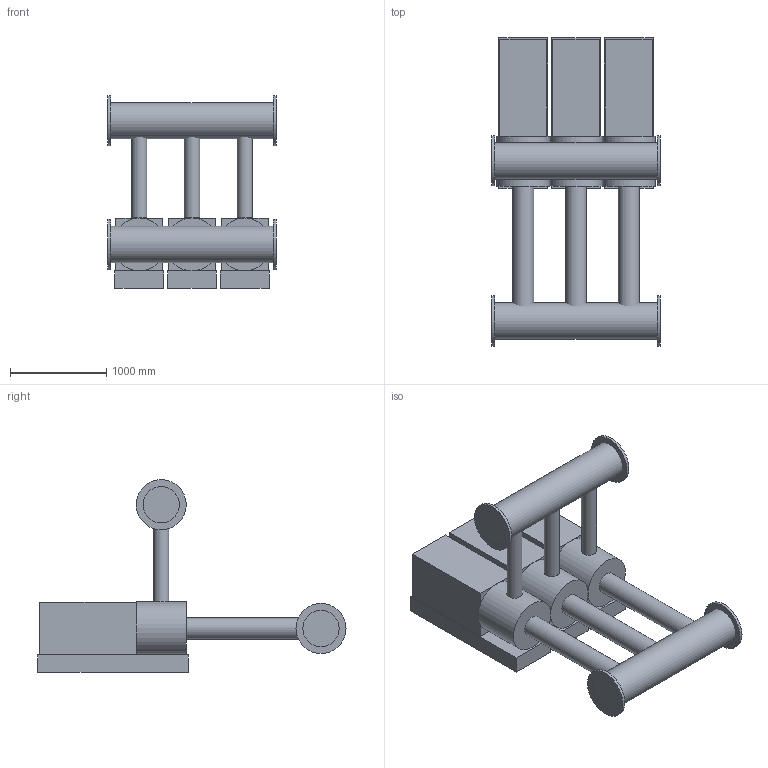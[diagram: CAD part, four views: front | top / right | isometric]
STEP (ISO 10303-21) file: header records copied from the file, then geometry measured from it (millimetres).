
FILE_DESCRIPTION(('Open CASCADE Model'),'2;1');
FILE_NAME('Open CASCADE Shape Model','2026-10-21T15:05:54',('Author'),( 'Open CASCADE'),'Open CASCADE STEP processor 7.9','Open CASCADE 7.9' ,'Unknown');
FILE_SCHEMA(('AUTOMOTIVE_DESIGN { 1 0 10303 214 1 1 1 1 }'));
Length unit declared in the file: millimetre
Products named in the file (22): Ð£ÐÐÐ_ÐÐ ÐÐÐÐ¬_3_NM_150_315; 000_ÐÐ¾Ð»Ð»ÐµÐºÑÐ¾Ñ 
Ð²ÑÐ°ÑÑÐ²Ð°ÑÑÐ¸Ð¹; 001_ÐÐ¾Ð»Ð»ÐµÐºÑÐ¾Ñ 
Ð²ÑÐ°ÑÑÐ²Ð°ÑÑÐ¸Ð¹ â 
ÑÐ»Ð°Ð½ÐµÑ ÐÑ350; 002_ÐÐ¾Ð»Ð»ÐµÐºÑÐ¾Ñ 
Ð²ÑÐ°ÑÑÐ²Ð°ÑÑÐ¸Ð¹ â 
ÑÐ»Ð°Ð½ÐµÑ ÐÑ350; 003_ÐÐ¾Ð»Ð»ÐµÐºÑÐ¾Ñ 
Ð½Ð°Ð¿Ð¾ÑÐ½ÑÐ¹; 004_ÐÐ¾Ð»Ð»ÐµÐºÑÐ¾Ñ 
Ð½Ð°Ð¿Ð¾ÑÐ½ÑÐ¹ â ÑÐ»Ð°Ð½ÐµÑ 
ÐÑ350; 005_ÐÐ¾Ð»Ð»ÐµÐºÑÐ¾Ñ 
Ð½Ð°Ð¿Ð¾ÑÐ½ÑÐ¹ â ÑÐ»Ð°Ð½ÐµÑ 
ÐÑ350; 006_Ð Ð°Ð¼Ð° Ð½Ð°ÑÐ¾ÑÐ° 1; 007_Ð Ð°Ð¼Ð° Ð½Ð°ÑÐ¾ÑÐ° 2; 008_Ð Ð°Ð¼Ð° Ð½Ð°ÑÐ¾ÑÐ° 3; 009_ÐÐ°ÑÐ¾Ñ 1 â ÐºÐ¾ÑÐ¿ÑÑ NM 150-315; 010_ÐÐ°ÑÐ¾Ñ 1 â Ð´Ð²Ð¸Ð³Ð°ÑÐµÐ»Ñ 
55.0 ÐºÐÑ; 011_ÐÐ°ÑÐ¾Ñ 1 â Ð²ÑÐ¾Ð´ ÐÑ200; 012_ÐÐ°ÑÐ¾Ñ 1 â Ð²ÑÑÐ¾Ð´ ÐÑ150; 013_ÐÐ°ÑÐ¾Ñ 2 â ÐºÐ¾ÑÐ¿ÑÑ NM 150-315; 014_ÐÐ°ÑÐ¾Ñ 2 â Ð´Ð²Ð¸Ð³Ð°ÑÐµÐ»Ñ 
55.0 ÐºÐÑ; 015_ÐÐ°ÑÐ¾Ñ 2 â Ð²ÑÐ¾Ð´ ÐÑ200; 016_ÐÐ°ÑÐ¾Ñ 2 â Ð²ÑÑÐ¾Ð´ ÐÑ150; 017_ÐÐ°ÑÐ¾Ñ 3 â ÐºÐ¾ÑÐ¿ÑÑ NM 150-315; 018_ÐÐ°ÑÐ¾Ñ 3 â Ð´Ð²Ð¸Ð³Ð°ÑÐµÐ»Ñ 
55.0 ÐºÐÑ; 019_ÐÐ°ÑÐ¾Ñ 3 â Ð²ÑÐ¾Ð´ ÐÑ200; 020_ÐÐ°ÑÐ¾Ñ 3 â Ð²ÑÑÐ¾Ð´ ÐÑ150
Assembly tree (21 placements, depth 2):
  Ð£ÐÐÐ_ÐÐ ÐÐÐÐ¬_3_NM_150_315
    000_ÐÐ¾Ð»Ð»ÐµÐºÑÐ¾Ñ 
Ð²ÑÐ°ÑÑÐ²Ð°ÑÑÐ¸Ð¹
    001_ÐÐ¾Ð»Ð»ÐµÐºÑÐ¾Ñ 
Ð²ÑÐ°ÑÑÐ²Ð°ÑÑÐ¸Ð¹ â 
ÑÐ»Ð°Ð½ÐµÑ ÐÑ350
    002_ÐÐ¾Ð»Ð»ÐµÐºÑÐ¾Ñ 
Ð²ÑÐ°ÑÑÐ²Ð°ÑÑÐ¸Ð¹ â 
ÑÐ»Ð°Ð½ÐµÑ ÐÑ350
    003_ÐÐ¾Ð»Ð»ÐµÐºÑÐ¾Ñ 
Ð½Ð°Ð¿Ð¾ÑÐ½ÑÐ¹
    004_ÐÐ¾Ð»Ð»ÐµÐºÑÐ¾Ñ 
Ð½Ð°Ð¿Ð¾ÑÐ½ÑÐ¹ â ÑÐ»Ð°Ð½ÐµÑ 
ÐÑ350
    005_ÐÐ¾Ð»Ð»ÐµÐºÑÐ¾Ñ 
Ð½Ð°Ð¿Ð¾ÑÐ½ÑÐ¹ â ÑÐ»Ð°Ð½ÐµÑ 
ÐÑ350
    006_Ð Ð°Ð¼Ð° Ð½Ð°ÑÐ¾ÑÐ° 1
    007_Ð Ð°Ð¼Ð° Ð½Ð°ÑÐ¾ÑÐ° 2
    008_Ð Ð°Ð¼Ð° Ð½Ð°ÑÐ¾ÑÐ° 3
    009_ÐÐ°ÑÐ¾Ñ 1 â ÐºÐ¾ÑÐ¿ÑÑ NM 150-315
    010_ÐÐ°ÑÐ¾Ñ 1 â Ð´Ð²Ð¸Ð³Ð°ÑÐµÐ»Ñ 
55.0 ÐºÐÑ
    011_ÐÐ°ÑÐ¾Ñ 1 â Ð²ÑÐ¾Ð´ ÐÑ200
    012_ÐÐ°ÑÐ¾Ñ 1 â Ð²ÑÑÐ¾Ð´ ÐÑ150
    013_ÐÐ°ÑÐ¾Ñ 2 â ÐºÐ¾ÑÐ¿ÑÑ NM 150-315
    014_ÐÐ°ÑÐ¾Ñ 2 â Ð´Ð²Ð¸Ð³Ð°ÑÐµÐ»Ñ 
55.0 ÐºÐÑ
    015_ÐÐ°ÑÐ¾Ñ 2 â Ð²ÑÐ¾Ð´ ÐÑ200
    016_ÐÐ°ÑÐ¾Ñ 2 â Ð²ÑÑÐ¾Ð´ ÐÑ150
    017_ÐÐ°ÑÐ¾Ñ 3 â ÐºÐ¾ÑÐ¿ÑÑ NM 150-315
    018_ÐÐ°ÑÐ¾Ñ 3 â Ð´Ð²Ð¸Ð³Ð°ÑÐµÐ»Ñ 
55.0 ÐºÐÑ
    019_ÐÐ°ÑÐ¾Ñ 3 â Ð²ÑÐ¾Ð´ ÐÑ200
    020_ÐÐ°ÑÐ¾Ñ 3 â Ð²ÑÑÐ¾Ð´ ÐÑ150
Bounding box: 1750 x 3200 x 2000 mm (x, y, z)
Volume: 2231590356.3 mm3; surface area: 30139523.8 mm2
Topology: 21 solids, 21 shells, 81 faces, 117 edges, 78 vertices
Faces by surface type: plane 66, cylinder 15
Full cylindrical faces by diameter (mm): 159 x3, 219 x3, 377 x2, 520 x4, 550 x3
Entity records: 3783 total; most frequent: DIRECTION 587, CARTESIAN_POINT 532, LINE 291, VECTOR 291, ORIENTED_EDGE 234, PCURVE 234, DEFINITIONAL_REPRESENTATION 234, AXIS2_PLACEMENT_3D 133
